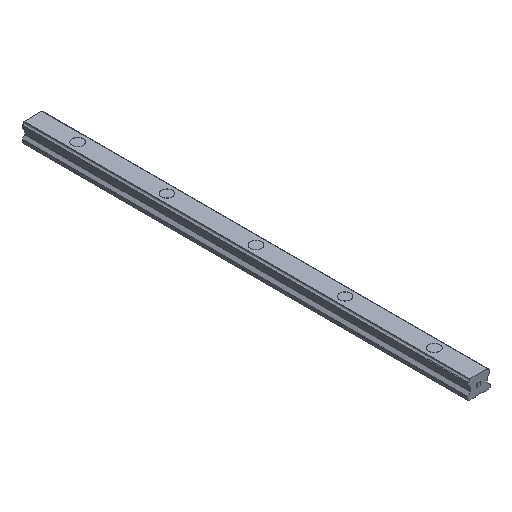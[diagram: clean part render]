
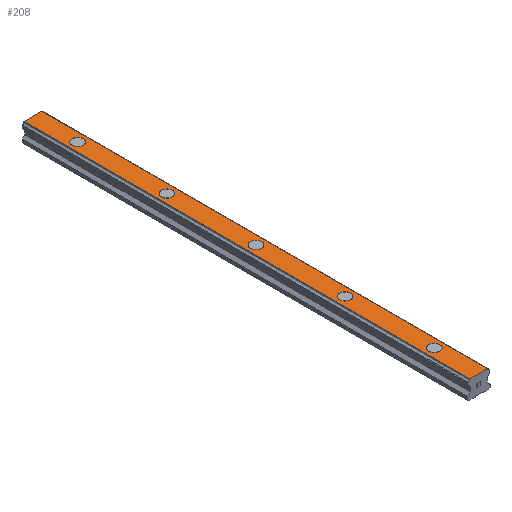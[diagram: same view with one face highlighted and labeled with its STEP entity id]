
A CAD part, isometric view. The second image highlights one B-rep face of the part: STEP entity #208.
In plain terms, the highlighted planar face has unit normal (0, 0, 1).
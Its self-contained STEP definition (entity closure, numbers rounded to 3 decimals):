
#208=ADVANCED_FACE('',(#504,#505,#506,#507,#508,#509),#510,.T.);
#504=FACE_BOUND('',#824,.T.);
#505=FACE_BOUND('',#825,.T.);
#506=FACE_BOUND('',#826,.T.);
#507=FACE_BOUND('',#827,.T.);
#508=FACE_BOUND('',#828,.T.);
#509=FACE_OUTER_BOUND('',#829,.T.);
#510=PLANE('',#830);
#824=EDGE_LOOP('',(#1985,#1986));
#825=EDGE_LOOP('',(#1987,#1988));
#826=EDGE_LOOP('',(#1989,#1990));
#827=EDGE_LOOP('',(#1991,#1992));
#828=EDGE_LOOP('',(#1993,#1994));
#829=EDGE_LOOP('',(#1995,#1996,#1997,#1998));
#830=AXIS2_PLACEMENT_3D('',#1999,#2000,#2001);
#1985=ORIENTED_EDGE('',*,*,#2197,.T.);
#1986=ORIENTED_EDGE('',*,*,#2488,.T.);
#1987=ORIENTED_EDGE('',*,*,#2187,.T.);
#1988=ORIENTED_EDGE('',*,*,#2505,.T.);
#1989=ORIENTED_EDGE('',*,*,#2177,.T.);
#1990=ORIENTED_EDGE('',*,*,#2510,.T.);
#1991=ORIENTED_EDGE('',*,*,#2167,.T.);
#1992=ORIENTED_EDGE('',*,*,#2515,.T.);
#1993=ORIENTED_EDGE('',*,*,#2157,.T.);
#1994=ORIENTED_EDGE('',*,*,#2520,.T.);
#1995=ORIENTED_EDGE('',*,*,#2470,.T.);
#1996=ORIENTED_EDGE('',*,*,#2542,.F.);
#1997=ORIENTED_EDGE('',*,*,#2368,.T.);
#1998=ORIENTED_EDGE('',*,*,#2541,.T.);
#1999=CARTESIAN_POINT('',(-6.071,300.0,12.5));
#2000=DIRECTION('',(0.0,0.0,1.0));
#2001=DIRECTION('',(-1.0,0.0,0.0));
#2157=EDGE_CURVE('',#2576,#2573,#2577,.T.);
#2167=EDGE_CURVE('',#2596,#2593,#2597,.T.);
#2177=EDGE_CURVE('',#2616,#2613,#2617,.T.);
#2187=EDGE_CURVE('',#2636,#2633,#2637,.T.);
#2197=EDGE_CURVE('',#2656,#2653,#2657,.T.);
#2368=EDGE_CURVE('',#2945,#2943,#2946,.T.);
#2470=EDGE_CURVE('',#3128,#3126,#3129,.T.);
#2488=EDGE_CURVE('',#2653,#2656,#3163,.T.);
#2505=EDGE_CURVE('',#2633,#2636,#3186,.T.);
#2510=EDGE_CURVE('',#2613,#2616,#3192,.T.);
#2515=EDGE_CURVE('',#2593,#2596,#3198,.T.);
#2520=EDGE_CURVE('',#2573,#2576,#3204,.T.);
#2541=EDGE_CURVE('',#2943,#3128,#3226,.T.);
#2542=EDGE_CURVE('',#2945,#3126,#3227,.T.);
#2573=VERTEX_POINT('',#3260);
#2576=VERTEX_POINT('',#3264);
#2577=CIRCLE('',#3265,3.75);
#2593=VERTEX_POINT('',#3284);
#2596=VERTEX_POINT('',#3288);
#2597=CIRCLE('',#3289,3.75);
#2613=VERTEX_POINT('',#3308);
#2616=VERTEX_POINT('',#3312);
#2617=CIRCLE('',#3313,3.75);
#2633=VERTEX_POINT('',#3332);
#2636=VERTEX_POINT('',#3336);
#2637=CIRCLE('',#3337,3.75);
#2653=VERTEX_POINT('',#3356);
#2656=VERTEX_POINT('',#3360);
#2657=CIRCLE('',#3361,3.75);
#2943=VERTEX_POINT('',#3781);
#2945=VERTEX_POINT('',#3784);
#2946=LINE('',#3785,#3786);
#3126=VERTEX_POINT('',#4048);
#3128=VERTEX_POINT('',#4051);
#3129=LINE('',#4052,#4053);
#3163=CIRCLE('',#4095,3.75);
#3186=CIRCLE('',#4126,3.75);
#3192=CIRCLE('',#4133,3.75);
#3198=CIRCLE('',#4140,3.75);
#3204=CIRCLE('',#4147,3.75);
#3226=LINE('',#4186,#4187);
#3227=LINE('',#4188,#4189);
#3260=CARTESIAN_POINT('',(3.75,30.0,12.5));
#3264=CARTESIAN_POINT('',(-3.75,30.0,12.5));
#3265=AXIS2_PLACEMENT_3D('',#4241,#4242,#4243);
#3284=CARTESIAN_POINT('',(3.75,90.0,12.5));
#3288=CARTESIAN_POINT('',(-3.75,90.0,12.5));
#3289=AXIS2_PLACEMENT_3D('',#4263,#4264,#4265);
#3308=CARTESIAN_POINT('',(3.75,150.0,12.5));
#3312=CARTESIAN_POINT('',(-3.75,150.0,12.5));
#3313=AXIS2_PLACEMENT_3D('',#4285,#4286,#4287);
#3332=CARTESIAN_POINT('',(3.75,210.0,12.5));
#3336=CARTESIAN_POINT('',(-3.75,210.0,12.5));
#3337=AXIS2_PLACEMENT_3D('',#4307,#4308,#4309);
#3356=CARTESIAN_POINT('',(3.75,270.0,12.5));
#3360=CARTESIAN_POINT('',(-3.75,270.0,12.5));
#3361=AXIS2_PLACEMENT_3D('',#4329,#4330,#4331);
#3781=CARTESIAN_POINT('',(-6.071,300.0,12.5));
#3784=CARTESIAN_POINT('',(5.916,300.0,12.5));
#3785=CARTESIAN_POINT('',(5.916,300.0,12.5));
#3786=VECTOR('',#4572,1.0);
#4048=CARTESIAN_POINT('',(5.916,0.0,12.5));
#4051=CARTESIAN_POINT('',(-6.071,0.0,12.5));
#4052=CARTESIAN_POINT('',(5.916,0.0,12.5));
#4053=VECTOR('',#4710,1.0);
#4095=AXIS2_PLACEMENT_3D('',#4746,#4747,#4748);
#4126=AXIS2_PLACEMENT_3D('',#4781,#4782,#4783);
#4133=AXIS2_PLACEMENT_3D('',#4794,#4795,#4796);
#4140=AXIS2_PLACEMENT_3D('',#4807,#4808,#4809);
#4147=AXIS2_PLACEMENT_3D('',#4820,#4821,#4822);
#4186=CARTESIAN_POINT('',(-6.071,300.0,12.5));
#4187=VECTOR('',#4849,1.0);
#4188=CARTESIAN_POINT('',(5.916,300.0,12.5));
#4189=VECTOR('',#4850,1.0);
#4241=CARTESIAN_POINT('',(0.0,30.0,12.5));
#4242=DIRECTION('',(0.0,0.0,-1.0));
#4243=DIRECTION('',(1.0,0.0,0.0));
#4263=CARTESIAN_POINT('',(0.0,90.0,12.5));
#4264=DIRECTION('',(0.0,0.0,-1.0));
#4265=DIRECTION('',(1.0,0.0,0.0));
#4285=CARTESIAN_POINT('',(0.0,150.0,12.5));
#4286=DIRECTION('',(0.0,0.0,-1.0));
#4287=DIRECTION('',(1.0,0.0,0.0));
#4307=CARTESIAN_POINT('',(0.0,210.0,12.5));
#4308=DIRECTION('',(0.0,0.0,-1.0));
#4309=DIRECTION('',(1.0,0.0,0.0));
#4329=CARTESIAN_POINT('',(0.0,270.0,12.5));
#4330=DIRECTION('',(0.0,0.0,-1.0));
#4331=DIRECTION('',(1.0,0.0,0.0));
#4572=DIRECTION('',(-1.0,0.0,0.0));
#4710=DIRECTION('',(1.0,0.0,0.0));
#4746=CARTESIAN_POINT('',(0.0,270.0,12.5));
#4747=DIRECTION('',(0.0,0.0,-1.0));
#4748=DIRECTION('',(1.0,0.0,0.0));
#4781=CARTESIAN_POINT('',(0.0,210.0,12.5));
#4782=DIRECTION('',(0.0,0.0,-1.0));
#4783=DIRECTION('',(1.0,0.0,0.0));
#4794=CARTESIAN_POINT('',(0.0,150.0,12.5));
#4795=DIRECTION('',(0.0,0.0,-1.0));
#4796=DIRECTION('',(1.0,0.0,0.0));
#4807=CARTESIAN_POINT('',(0.0,90.0,12.5));
#4808=DIRECTION('',(0.0,0.0,-1.0));
#4809=DIRECTION('',(1.0,0.0,0.0));
#4820=CARTESIAN_POINT('',(0.0,30.0,12.5));
#4821=DIRECTION('',(0.0,0.0,-1.0));
#4822=DIRECTION('',(1.0,0.0,0.0));
#4849=DIRECTION('',(0.0,-1.0,0.0));
#4850=DIRECTION('',(0.0,-1.0,0.0));
